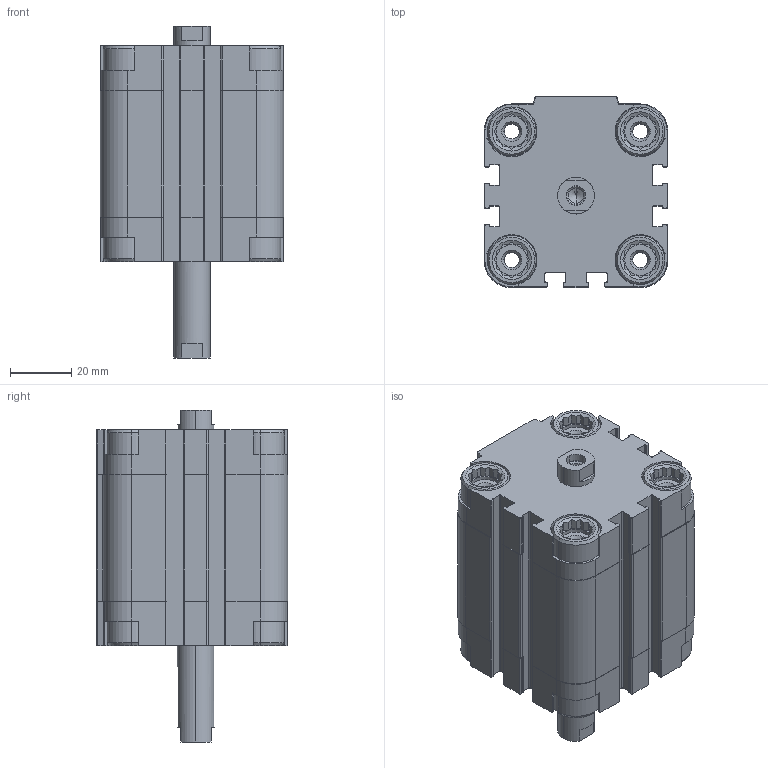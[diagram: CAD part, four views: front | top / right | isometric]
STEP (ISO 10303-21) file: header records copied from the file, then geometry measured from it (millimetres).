
FILE_DESCRIPTION (( 'STEP AP203' ), '1' );
FILE_NAME ('CDVU40-25F-P.STEP', '2020-07-24T18:15:09', ( '' ), ( '' ), 'SwSTEP 2.0', 'SolidWorks 2019', '' );
FILE_SCHEMA (( 'CONFIG_CONTROL_DESIGN' ));
Length unit declared in the file: millimetre
Products named in the file (1): CDVU40-25F-P
Bounding box: 60 x 62.5 x 108.5 mm (x, y, z)
Volume: 198278.7 mm3; surface area: 53866.4 mm2
Topology: 2 solids, 2 shells, 722 faces, 1928 edges, 1244 vertices
Faces by surface type: plane 422, cylinder 236, cone 64
Entity records: 22623 total; most frequent: CARTESIAN_POINT 4463, ORIENTED_EDGE 3840, DIRECTION 3710, EDGE_CURVE 1920, AXIS2_PLACEMENT_3D 1259, VERTEX_POINT 1244, LINE 1192, VECTOR 1192
